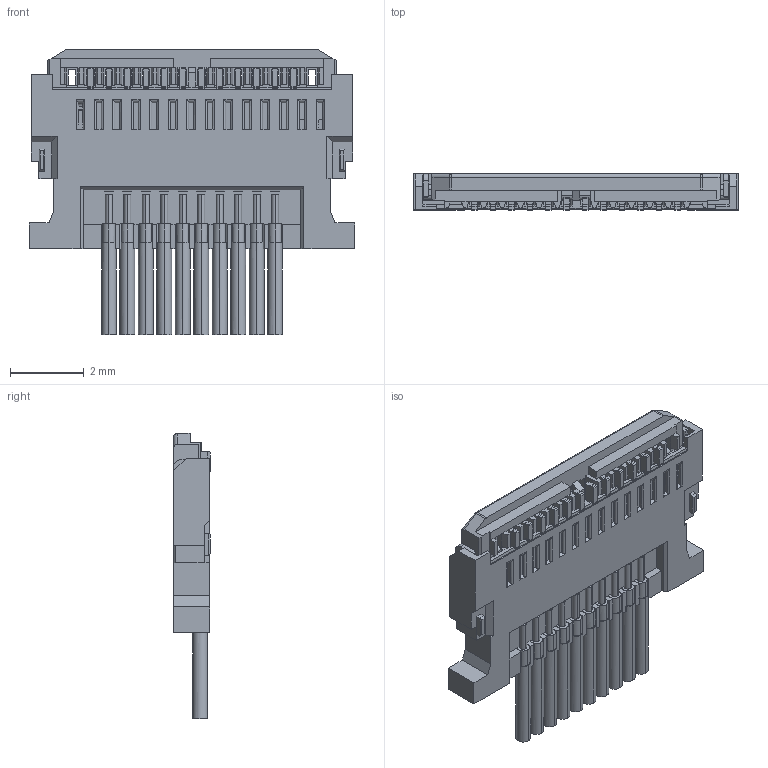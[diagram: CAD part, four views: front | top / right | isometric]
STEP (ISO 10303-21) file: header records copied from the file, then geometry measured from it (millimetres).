
FILE_DESCRIPTION (( 'STEP AP214' ), '1' );
FILE_NAME ('MATTING-ASSY 10P.STEP', '2015-07-22T07:13:35', ( '' ), ( '' ), 'SwSTEP 2.0', 'SolidWorks 2012', '' );
FILE_SCHEMA (( 'AUTOMOTIVE_DESIGN' ));
Length unit declared in the file: millimetre
Products named in the file (1): MATTING-ASSY 10P
Bounding box: 8.8 x 1 x 7.72 mm (x, y, z)
Volume: 37.1 mm3; surface area: 194.7 mm2
Topology: 1 solids, 13 shells, 1387 faces, 4020 edges, 2620 vertices
Faces by surface type: plane 1088, cylinder 297, sphere 2
Entity records: 45427 total; most frequent: CARTESIAN_POINT 9139, ORIENTED_EDGE 8036, DIRECTION 6994, EDGE_CURVE 4018, VECTOR 3300, LINE 3300, VERTEX_POINT 2620, AXIS2_PLACEMENT_3D 1847
